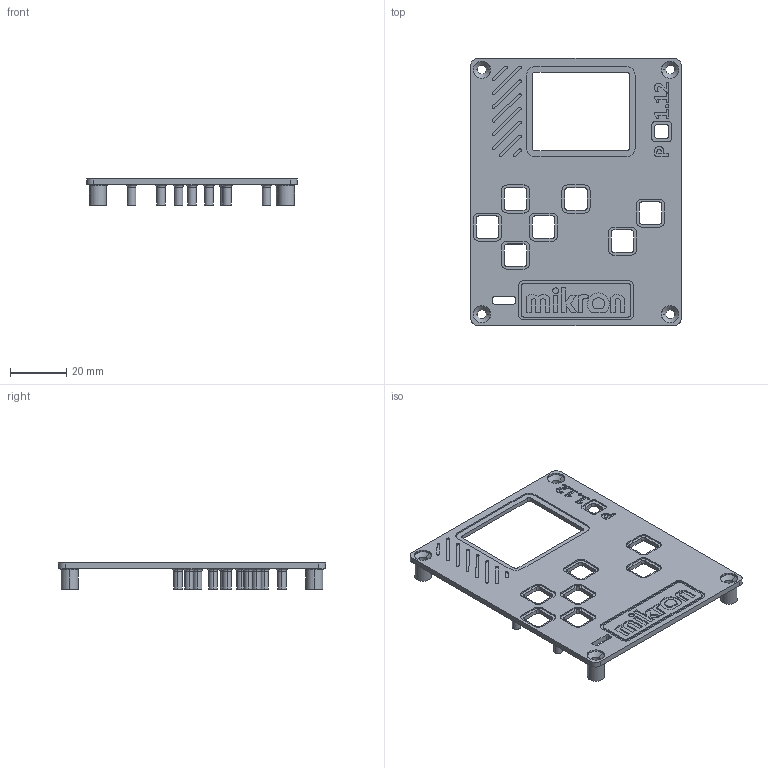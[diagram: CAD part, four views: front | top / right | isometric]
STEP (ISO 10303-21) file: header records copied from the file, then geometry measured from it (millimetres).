
FILE_DESCRIPTION (( 'STEP AP214' ), '1' );
FILE_NAME ('Ëèöåâàÿ ïàíåëü.STEP', '2026-03-27T10:17:22', ( '' ), ( '' ), 'SwSTEP 2.0', 'SolidWorks 2025', '' );
FILE_SCHEMA (( 'AUTOMOTIVE_DESIGN' ));
Length unit declared in the file: millimetre
Products named in the file (1): Лицевая панель
Bounding box: 75 x 95 x 9.3 mm (x, y, z)
Volume: 12015.4 mm3; surface area: 14810.6 mm2
Topology: 1 solids, 1 shells, 493 faces, 1269 edges, 832 vertices
Faces by surface type: plane 220, cylinder 193, bspline 38, torus 34, cone 8
Entity records: 16847 total; most frequent: CARTESIAN_POINT 4417, DIRECTION 2567, ORIENTED_EDGE 2538, EDGE_CURVE 1269, AXIS2_PLACEMENT_3D 918, VERTEX_POINT 832, VECTOR 731, LINE 731
